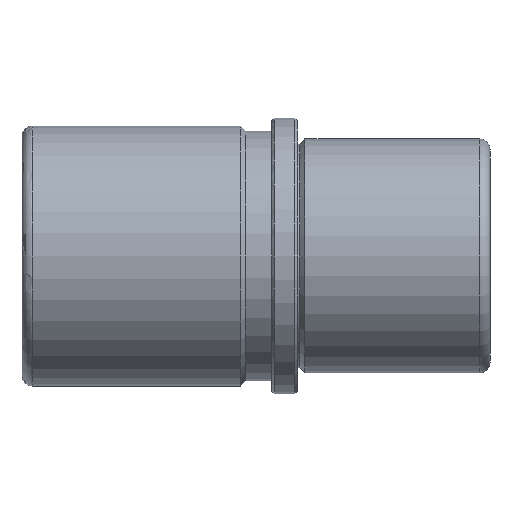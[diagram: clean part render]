
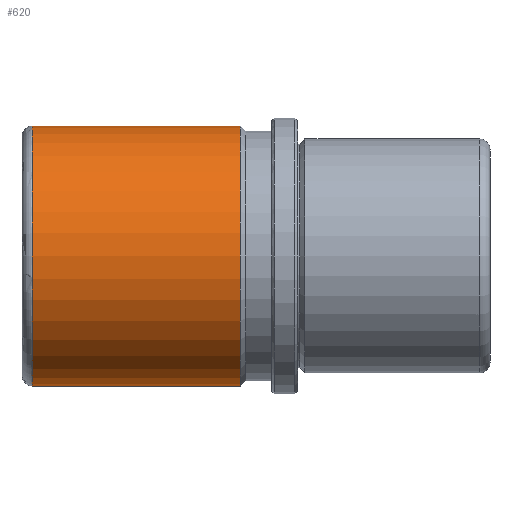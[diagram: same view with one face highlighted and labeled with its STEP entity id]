
A CAD part, front view. The second image highlights one B-rep face of the part: STEP entity #620.
In plain terms, the highlighted cylindrical face has radius 25 mm (diameter 50 mm), a partial arc.
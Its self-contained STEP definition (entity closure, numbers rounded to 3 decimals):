
#405=CARTESIAN_POINT('Line Origine',(37.,0.,25.)) ;
#409=CARTESIAN_POINT('Vertex',(-11.,0.,25.)) ;
#411=CARTESIAN_POINT('Vertex',(-51.,0.,25.)) ;
#425=CARTESIAN_POINT('Vertex',(-11.,0.,-25.)) ;
#428=CARTESIAN_POINT('Line Origine',(37.,0.,-25.)) ;
#432=CARTESIAN_POINT('Vertex',(-51.,0.,-25.)) ;
#583=CARTESIAN_POINT('Axis2P3D Location',(37.,0.,0.)) ;
#588=CARTESIAN_POINT('Axis2P3D Location',(-11.,0.,0.)) ;
#592=CARTESIAN_POINT('Vertex',(-11.,-25.,0.)) ;
#595=CARTESIAN_POINT('Axis2P3D Location',(-11.,0.,0.)) ;
#600=CARTESIAN_POINT('Axis2P3D Location',(-51.,0.,0.)) ;
#604=CARTESIAN_POINT('Vertex',(-51.,-25.,0.)) ;
#607=CARTESIAN_POINT('Axis2P3D Location',(-51.,0.,0.)) ;
#406=DIRECTION('Vector Direction',(-1.,0.,0.)) ;
#429=DIRECTION('Vector Direction',(-1.,0.,0.)) ;
#584=DIRECTION('Axis2P3D Direction',(-1.,-0.,-0.)) ;
#585=DIRECTION('Axis2P3D XDirection',(0.,0.,-1.)) ;
#589=DIRECTION('Axis2P3D Direction',(-1.,-0.,-0.)) ;
#596=DIRECTION('Axis2P3D Direction',(-1.,-0.,-0.)) ;
#601=DIRECTION('Axis2P3D Direction',(-1.,-0.,-0.)) ;
#608=DIRECTION('Axis2P3D Direction',(-1.,-0.,-0.)) ;
#586=AXIS2_PLACEMENT_3D('Cylinder Axis2P3D',#583,#584,#585) ;
#590=AXIS2_PLACEMENT_3D('Circle Axis2P3D',#588,#589,$) ;
#597=AXIS2_PLACEMENT_3D('Circle Axis2P3D',#595,#596,$) ;
#602=AXIS2_PLACEMENT_3D('Circle Axis2P3D',#600,#601,$) ;
#609=AXIS2_PLACEMENT_3D('Circle Axis2P3D',#607,#608,$) ;
#613=ORIENTED_EDGE('',*,*,#434,.T.) ;
#614=ORIENTED_EDGE('',*,*,#594,.F.) ;
#615=ORIENTED_EDGE('',*,*,#599,.F.) ;
#616=ORIENTED_EDGE('',*,*,#413,.T.) ;
#617=ORIENTED_EDGE('',*,*,#606,.T.) ;
#618=ORIENTED_EDGE('',*,*,#611,.T.) ;
#407=VECTOR('Line Direction',#406,1.) ;
#430=VECTOR('Line Direction',#429,1.) ;
#620=ADVANCED_FACE('FAMO-SF1-D32 x 90',(#619),#587,.T.) ;
#591=CIRCLE('generated circle',#590,25.) ;
#598=CIRCLE('generated circle',#597,25.) ;
#603=CIRCLE('generated circle',#602,25.) ;
#610=CIRCLE('generated circle',#609,25.) ;
#587=CYLINDRICAL_SURFACE('generated cylinder',#586,25.) ;
#413=EDGE_CURVE('',#410,#412,#408,.T.) ;
#434=EDGE_CURVE('',#433,#426,#431,.F.) ;
#594=EDGE_CURVE('',#593,#426,#591,.F.) ;
#599=EDGE_CURVE('',#410,#593,#598,.F.) ;
#606=EDGE_CURVE('',#412,#605,#603,.F.) ;
#611=EDGE_CURVE('',#605,#433,#610,.F.) ;
#612=EDGE_LOOP('',(#613,#614,#615,#616,#617,#618)) ;
#619=FACE_OUTER_BOUND('',#612,.T.) ;
#408=LINE('Line',#405,#407) ;
#431=LINE('Line',#428,#430) ;
#410=VERTEX_POINT('',#409) ;
#412=VERTEX_POINT('',#411) ;
#426=VERTEX_POINT('',#425) ;
#433=VERTEX_POINT('',#432) ;
#593=VERTEX_POINT('',#592) ;
#605=VERTEX_POINT('',#604) ;
